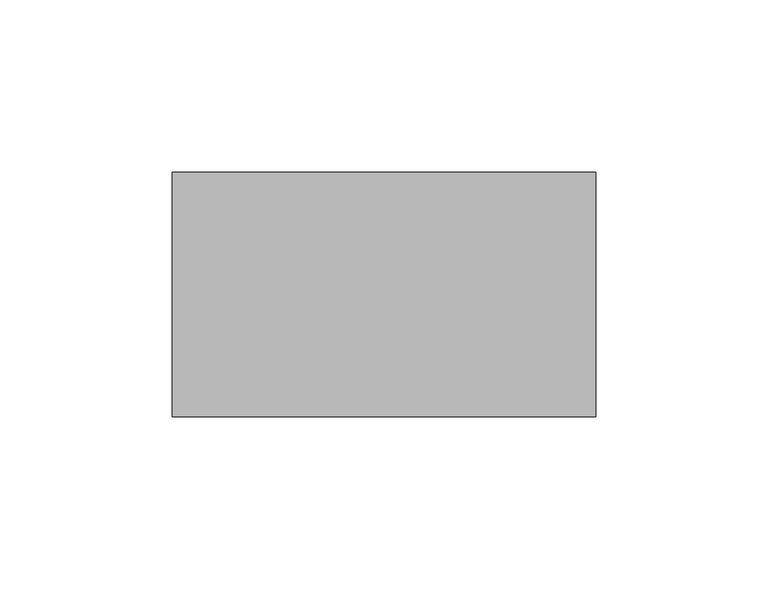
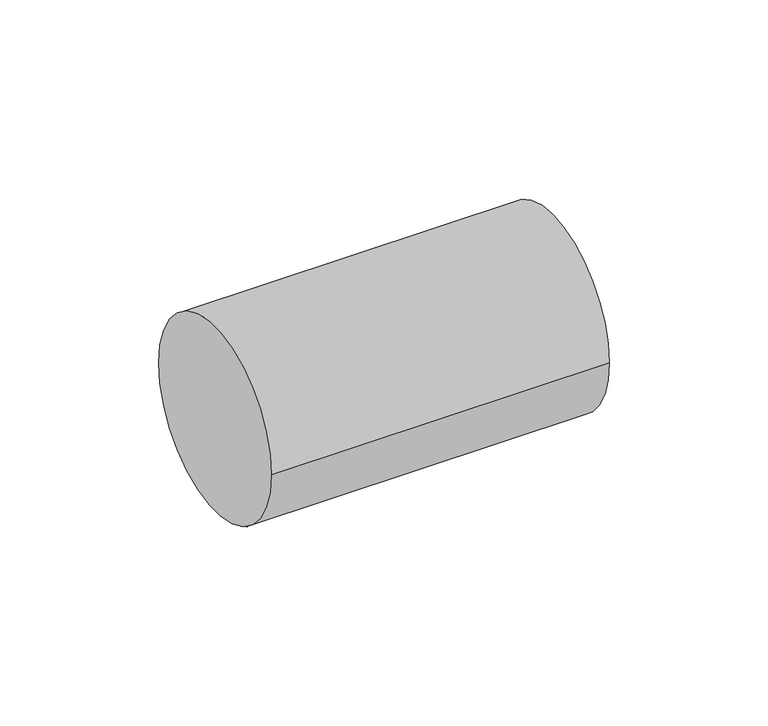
"""IFC4 building model written with IfcOpenShell, lengths in millimetres: pipe fitting geometry, 01051055 : Manchon longue."""

import ifcopenshell
import ifcopenshell.guid

model = None  # the IFC model being written
_history = None  # IfcOwnerHistory: only IFC2X3 demands one
_inside = {}  # id of a spatial element -> (the spatial element, [elements in it])
_under = {}  # id of a project, library or spatial element -> (it, [spatial elements below it])
_declared = {}  # id of a project -> (the project, [libraries it declares])
_typed = {}  # id of a type object -> (the type object, [elements of that type])
_made_of = {}  # id of a material, layer set ... -> (it, [elements and type objects made of it])


def new_model(schema):
    """Start an empty IFC model of exactly this schema.

    Asked for "IFC4X3", IfcOpenShell would pick the latest addendum, in which some entities
    have other attributes; the version numbers below select the first issue.
    IFC2X3 requires an IfcOwnerHistory on every rooted entity: one is made here for all.
    """
    global model, _history
    if schema == "IFC4X3":
        model = ifcopenshell.file(schema_version=(4, 3, 0, 0))
    else:
        model = ifcopenshell.file(schema=schema)
    _inside.clear()
    _under.clear()
    _declared.clear()
    _typed.clear()
    _made_of.clear()
    _history = None
    if model.schema == "IFC2X3":
        org = make("IfcOrganization", Name="unknown")
        user = make(
            "IfcPersonAndOrganization",
            ThePerson=make("IfcPerson", FamilyName="unknown"),
            TheOrganization=org,
        )
        app = make(
            "IfcApplication",
            ApplicationDeveloper=org,
            Version="unknown",
            ApplicationFullName="unknown",
            ApplicationIdentifier="unknown",
        )
        _history = make(
            "IfcOwnerHistory",
            OwningUser=user,
            OwningApplication=app,
            ChangeAction="ADDED",
            CreationDate=0,
        )
    return model


def make(cls, **values):
    """One entity of the class cls with the attributes given. An attribute that is None is left unset."""
    return model.create_entity(
        cls, **{name: value for name, value in values.items() if value is not None}
    )


def rooted(cls, **values):
    """An entity with a GlobalId (a new one), such as an element, a storey or a relation."""
    return make(cls, GlobalId=ifcopenshell.guid.new(), OwnerHistory=_history, **values)


def si_unit(unit_type, name, prefix=None):
    """IfcSIUnit, for example si_unit("LENGTHUNIT", "METRE", prefix="MILLI")."""
    return make("IfcSIUnit", UnitType=unit_type, Prefix=prefix, Name=name)


def assignment(units):
    """IfcUnitAssignment: the units of a project."""
    return None if units is None else make("IfcUnitAssignment", Units=units)


def point(xyz):
    """IfcCartesianPoint."""
    return None if xyz is None else make("IfcCartesianPoint", Coordinates=xyz)


def direction(xyz):
    """IfcDirection."""
    return None if xyz is None else make("IfcDirection", DirectionRatios=xyz)


def frame(location, z_axis=None, x_axis=None):
    """IfcAxis2Placement3D, a coordinate frame: its origin and axes. An axis left out is left unset."""
    return make(
        "IfcAxis2Placement3D",
        Location=point(location),
        Axis=direction(z_axis),
        RefDirection=direction(x_axis),
    )


def frame_2d(location, x_axis=None):
    """IfcAxis2Placement2D, a coordinate frame in the plane: its origin and x axis."""
    return make(
        "IfcAxis2Placement2D", Location=point(location), RefDirection=direction(x_axis)
    )


def origin():
    """The frame at (0, 0, 0) with its axes left unset."""
    return frame((0.0, 0.0, 0.0))


def origin_2d():
    """The frame at (0, 0) in the plane with its x axis left unset."""
    return frame_2d((0.0, 0.0))


def place(relative_to, where):
    """IfcLocalPlacement: puts the frame where relative to a parent placement (None: the world)."""
    return make(
        "IfcLocalPlacement", PlacementRelTo=relative_to, RelativePlacement=where
    )


def context(
    kind, dimensions, precision=None, world=None, true_north=None, identifier=None
):
    """IfcGeometricRepresentationContext, for example the 3D "Model" context."""
    return make(
        "IfcGeometricRepresentationContext",
        ContextIdentifier=identifier,
        ContextType=kind,
        CoordinateSpaceDimension=dimensions,
        Precision=precision,
        WorldCoordinateSystem=world,
        TrueNorth=true_north,
    )


def project(units=None, contexts=None):
    """IfcProject with its units and contexts."""
    return rooted(
        "IfcProject",
        Name="project",
        RepresentationContexts=contexts,
        UnitsInContext=assignment(units),
    )


def spatial(cls, under=None, at=None, **own):
    """A site, building, storey or space (cls), placed at a placement, below another one or the project."""
    s = rooted(cls, ObjectPlacement=at, **own)
    if under is not None:
        _under.setdefault(under.id(), (under, []))[1].append(s)
    return s


def circle_curve(where, radius):
    """IfcCircle in the frame where."""
    return make("IfcCircle", Position=where, Radius=radius)


def trimmed(basis, trim1, trim2, sense, master):
    """IfcTrimmedCurve: the piece of a basis curve between two trims."""
    return make(
        "IfcTrimmedCurve",
        BasisCurve=basis,
        Trim1=trim1,
        Trim2=trim2,
        SenseAgreement=sense,
        MasterRepresentation=master,
    )


def segment(curve, same_sense, transition):
    """IfcCompositeCurveSegment."""
    return make(
        "IfcCompositeCurveSegment",
        Transition=transition,
        SameSense=same_sense,
        ParentCurve=curve,
    )


def composite_curve(segments, self_intersect=None):
    """IfcCompositeCurve: segments joined end to end."""
    return make("IfcCompositeCurve", Segments=segments, SelfIntersect=self_intersect)


def outline(outer, holes=None, kind="AREA"):
    """IfcArbitraryClosedProfileDef: a profile drawn as a closed curve; with holes, ...WithVoids."""
    if holes is None:
        return make("IfcArbitraryClosedProfileDef", ProfileType=kind, OuterCurve=outer)
    return make(
        "IfcArbitraryProfileDefWithVoids",
        ProfileType=kind,
        OuterCurve=outer,
        InnerCurves=holes,
    )


def extrude(swept, where, along, depth):
    """IfcExtrudedAreaSolid: the profile swept, set in the frame where, extruded along a direction by depth."""
    return make(
        "IfcExtrudedAreaSolid",
        SweptArea=swept,
        Position=where,
        ExtrudedDirection=direction(along),
        Depth=depth,
    )


def shape(context_of_items, identifier, shape_type, items):
    """IfcShapeRepresentation: the items that make up one representation, for example the "Body"."""
    return make(
        "IfcShapeRepresentation",
        ContextOfItems=context_of_items,
        RepresentationIdentifier=identifier,
        RepresentationType=shape_type,
        Items=items,
    )


def source(mapping_origin, context_of_items, identifier, shape_type, items):
    """IfcRepresentationMap: a shape defined once, which mapped items show again and again."""
    return make(
        "IfcRepresentationMap",
        MappingOrigin=mapping_origin,
        MappedRepresentation=shape(context_of_items, identifier, shape_type, items),
    )


def transform(
    local_origin,
    x_axis=None,
    y_axis=None,
    z_axis=None,
    scale=None,
    scale2=None,
    scale3=None,
    uniform=True,
):
    """IfcCartesianTransformationOperator3D, or its non-uniform kind. x_axis, y_axis, z_axis: its Axis1, 2, 3."""
    if uniform:
        return make(
            "IfcCartesianTransformationOperator3D",
            Axis1=direction(x_axis),
            Axis2=direction(y_axis),
            LocalOrigin=point(local_origin),
            Scale=scale,
            Axis3=direction(z_axis),
        )
    return make(
        "IfcCartesianTransformationOperator3DnonUniform",
        Axis1=direction(x_axis),
        Axis2=direction(y_axis),
        LocalOrigin=point(local_origin),
        Scale=scale,
        Axis3=direction(z_axis),
        Scale2=scale2,
        Scale3=scale3,
    )


def mapped(mapping_source, mapping_target):
    """IfcMappedItem: shows the shape of a source again, moved by a transform."""
    return make(
        "IfcMappedItem", MappingSource=mapping_source, MappingTarget=mapping_target
    )


def made_of(thing, what):
    """Note that an element or type object is made of a material, layer set ...; save() writes the relation."""
    if what is not None:
        _made_of.setdefault(what.id(), (what, []))[1].append(thing)
    return thing


def element(
    cls,
    number,
    at=None,
    inside=None,
    cuts=None,
    type_object=None,
    material=None,
    context=None,
    identifier="Body",
    shape_type=None,
    held_by="IfcProductDefinitionShape",
    body=None,
    shapes=None,
    **own,
):
    """One element of the class cls, such as IfcWall. Its Tag is "e" and its number.

    at: its placement. inside: the storey or other place that contains it. cuts: it is an
    opening in that element (IfcRelVoidsElement). A single representation is given by context,
    identifier, shape_type and body (its items); several are given by shapes. held_by: the class
    of the entity that holds the representations. save() writes the other relations.
    """
    e = rooted(cls, Tag="e%d" % number, ObjectPlacement=at, **own)
    if body is not None:
        shapes = [shape(context, identifier, shape_type, body)]
    if shapes is not None:
        e.Representation = make(held_by, Representations=shapes)
    if inside is not None:
        _inside.setdefault(inside.id(), (inside, []))[1].append(e)
    if cuts is not None:
        rooted(
            "IfcRelVoidsElement", RelatingBuildingElement=cuts, RelatedOpeningElement=e
        )
    if type_object is not None:
        _typed.setdefault(type_object.id(), (type_object, []))[1].append(e)
    return made_of(e, material)


def aggregate(whole, parts):
    """IfcRelAggregates: a whole, such as a stair, and the parts it consists of."""
    return rooted("IfcRelAggregates", RelatingObject=whole, RelatedObjects=parts)


def save(model, path):
    """Write the relations noted so far, then the file.

    IfcRelAggregates (storeys below a building ...), IfcRelContainedInSpatialStructure (elements
    in a storey), IfcRelDefinesByType, IfcRelAssociatesMaterial and IfcRelDeclares: one each for
    every whole, place, type object, material and project.
    """
    for whole, parts in _under.values():
        aggregate(whole, parts)
    for where, things in _inside.values():
        rooted(
            "IfcRelContainedInSpatialStructure",
            RelatedElements=things,
            RelatingStructure=where,
        )
    for kind, things in _typed.values():
        rooted("IfcRelDefinesByType", RelatedObjects=things, RelatingType=kind)
    for what, things in _made_of.values():
        rooted("IfcRelAssociatesMaterial", RelatedObjects=things, RelatingMaterial=what)
    for by, libraries in _declared.values():
        rooted("IfcRelDeclares", RelatingContext=by, RelatedDefinitions=libraries)
    model.write(path)


def pipe_fitting_3298e7e9(model_context):
    return source(origin(), model_context, "Body", "SweptSolid", [
        extrude(outline(composite_curve([segment(trimmed(circle_curve(origin_2d(), 35.5), [point((-35.5, 0.0))], [point((35.5, 0.0))], False, "CARTESIAN"), True, "CONTINUOUS"), segment(trimmed(circle_curve(origin_2d(), 35.5), [point((35.5, 0.0))], [point((-35.5, 0.0))], False, "CARTESIAN"), True, "CONTINUOUS")], self_intersect=False)), frame((-61.5, 0.0, 0.0), z_axis=(1.0, 0.0, 0.0), x_axis=(0.0, 1.0, 0.0)), (0.0, 0.0, 1.0), 123.0),
    ])


if __name__ == "__main__":
    model = new_model("IFC4")
    model_context = context("Model", 3, world=origin())
    ifc_project = project(units=[si_unit("LENGTHUNIT", "METRE", prefix="MILLI")], contexts=[model_context])
    site = spatial("IfcSite", under=ifc_project)
    building = spatial("IfcBuilding", under=site)
    placement = place(None, origin())
    pipe_fitting_shape = pipe_fitting_3298e7e9(model_context)
    element("IfcPipeFitting", 1, ObjectType="01051055 : Manchon longue", at=placement, inside=building, context=model_context, shape_type="MappedRepresentation", body=[
        mapped(pipe_fitting_shape, transform((0.0, 0.0, 0.0), x_axis=(1.0, 0.0, 0.0), y_axis=(0.0, 1.0, 0.0), z_axis=(0.0, 0.0, 1.0))),
    ])
    save(model, "model.ifc")
